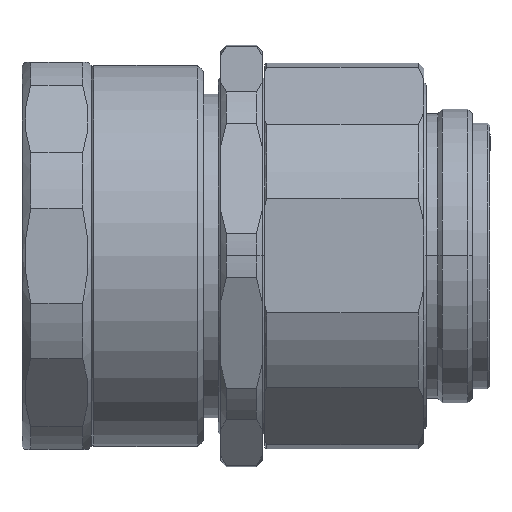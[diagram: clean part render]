
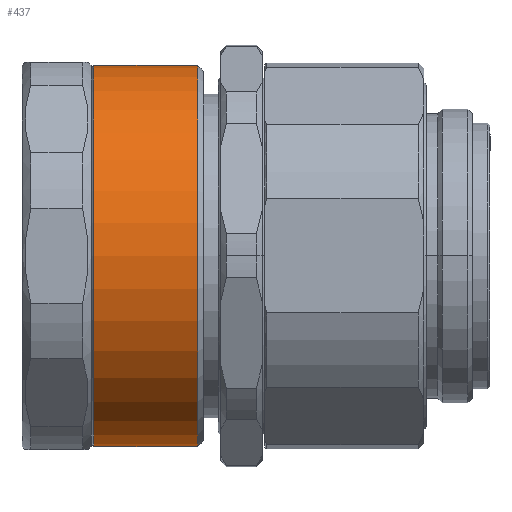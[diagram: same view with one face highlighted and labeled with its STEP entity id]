
A CAD part, top view. The second image highlights one B-rep face of the part: STEP entity #437.
In plain terms, the highlighted cylindrical face has radius 16.499 mm (diameter 32.999 mm), a partial arc.
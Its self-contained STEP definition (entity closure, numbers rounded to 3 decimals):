
#1 = CYLINDRICAL_SURFACE ( 'NONE', #3645, 16.499 ) ;
#94 = CARTESIAN_POINT ( 'NONE',  ( -37.3, 0., 0. ) ) ;
#199 = EDGE_CURVE ( 'NONE', #1387, #2515, #2984, .T. ) ;
#242 = CARTESIAN_POINT ( 'NONE',  ( -37.3, -16.499, 0. ) ) ;
#437 = ADVANCED_FACE ( 'NONE', ( #1231 ), #1, .T. ) ;
#863 = CARTESIAN_POINT ( 'NONE',  ( -0.004, -16.499, 0. ) ) ;
#887 = DIRECTION ( 'NONE',  ( 1., 0., 0. ) ) ;
#920 = EDGE_LOOP ( 'NONE', ( #3500, #1760, #2972, #4009 ) ) ;
#1093 = EDGE_CURVE ( 'NONE', #1925, #2080, #1282, .T. ) ;
#1231 = FACE_OUTER_BOUND ( 'NONE', #920, .T. ) ;
#1250 = CARTESIAN_POINT ( 'NONE',  ( -0.004, 0., 0. ) ) ;
#1282 = LINE ( 'NONE', #3322, #2057 ) ;
#1387 = VERTEX_POINT ( 'NONE', #4603 ) ;
#1432 = CIRCLE ( 'NONE', #3411, 16.499 ) ;
#1700 = CARTESIAN_POINT ( 'NONE',  ( -46.3, 0., 0. ) ) ;
#1760 = ORIENTED_EDGE ( 'NONE', *, *, #199, .T. ) ;
#1848 = DIRECTION ( 'NONE',  ( 1., 0., 0. ) ) ;
#1925 = VERTEX_POINT ( 'NONE', #4834 ) ;
#1997 = VECTOR ( 'NONE', #2046, 1000. ) ;
#2043 = DIRECTION ( 'NONE',  ( 0., 1., 0. ) ) ;
#2046 = DIRECTION ( 'NONE',  ( 1., 0., 0. ) ) ;
#2057 = VECTOR ( 'NONE', #1848, 1000. ) ;
#2080 = VERTEX_POINT ( 'NONE', #4345 ) ;
#2342 = DIRECTION ( 'NONE',  ( 0., 1., 0. ) ) ;
#2515 = VERTEX_POINT ( 'NONE', #242 ) ;
#2597 = CIRCLE ( 'NONE', #4408, 16.499 ) ;
#2972 = ORIENTED_EDGE ( 'NONE', *, *, #3532, .F. ) ;
#2984 = LINE ( 'NONE', #863, #1997 ) ;
#3062 = EDGE_CURVE ( 'NONE', #1925, #1387, #2597, .T. ) ;
#3131 = DIRECTION ( 'NONE',  ( 1., 0., 0. ) ) ;
#3174 = DIRECTION ( 'NONE',  ( 0., 1., 0. ) ) ;
#3322 = CARTESIAN_POINT ( 'NONE',  ( -0.004, 16.499, 0. ) ) ;
#3411 = AXIS2_PLACEMENT_3D ( 'NONE', #94, #4564, #2342 ) ;
#3500 = ORIENTED_EDGE ( 'NONE', *, *, #3062, .T. ) ;
#3532 = EDGE_CURVE ( 'NONE', #2080, #2515, #1432, .T. ) ;
#3645 = AXIS2_PLACEMENT_3D ( 'NONE', #1250, #3131, #2043 ) ;
#4009 = ORIENTED_EDGE ( 'NONE', *, *, #1093, .F. ) ;
#4345 = CARTESIAN_POINT ( 'NONE',  ( -37.3, 16.499, 0. ) ) ;
#4408 = AXIS2_PLACEMENT_3D ( 'NONE', #1700, #887, #3174 ) ;
#4564 = DIRECTION ( 'NONE',  ( 1., 0., 0. ) ) ;
#4603 = CARTESIAN_POINT ( 'NONE',  ( -46.3, -16.499, 0. ) ) ;
#4834 = CARTESIAN_POINT ( 'NONE',  ( -46.3, 16.499, 0. ) ) ;
